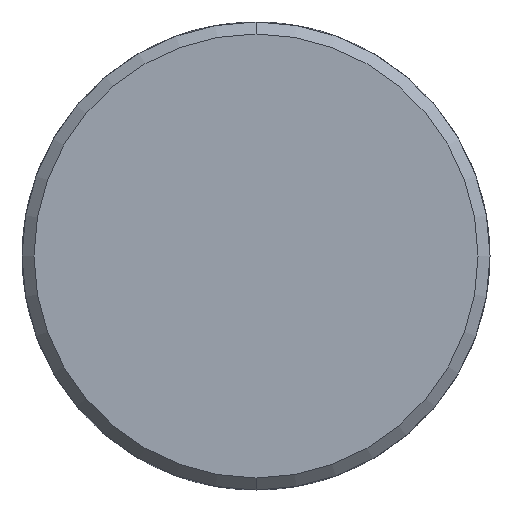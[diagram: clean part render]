
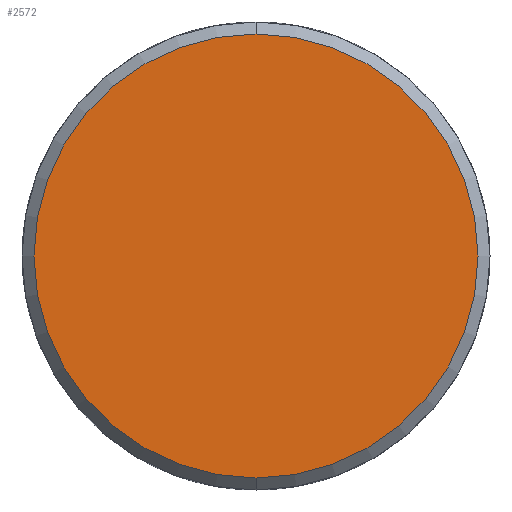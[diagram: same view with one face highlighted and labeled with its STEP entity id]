
A CAD part, front view. The second image highlights one B-rep face of the part: STEP entity #2572.
In plain terms, the highlighted planar face has unit normal (0, -1, 0).
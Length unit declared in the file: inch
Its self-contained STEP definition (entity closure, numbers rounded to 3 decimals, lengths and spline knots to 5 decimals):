
#444 = FACE_OUTER_BOUND ( 'NONE', #2573, .T. ) ;
#446 = PLANE ( 'NONE',  #571 ) ;
#454 = DIRECTION ( 'NONE',  ( 0., 0., 1. ) ) ;
#455 = DIRECTION ( 'NONE',  ( 0., 1., 0. ) ) ;
#570 = CARTESIAN_POINT ( 'NONE',  ( 0., 0., 0. ) ) ;
#571 = AXIS2_PLACEMENT_3D ( 'NONE', #570, #455, #454 ) ;
#841 = CIRCLE ( 'NONE', #863, 1.11 ) ;
#859 = DIRECTION ( 'NONE',  ( 0., 0., 1. ) ) ;
#860 = DIRECTION ( 'NONE',  ( 0., -1., 0. ) ) ;
#862 = CARTESIAN_POINT ( 'NONE',  ( 0., 0., 0. ) ) ;
#863 = AXIS2_PLACEMENT_3D ( 'NONE', #862, #860, #859 ) ;
#2035 = EDGE_CURVE ( 'NONE', #2036, #2037, #3167, .T. ) ;
#2036 = VERTEX_POINT ( 'NONE', #3163 ) ;
#2037 = VERTEX_POINT ( 'NONE', #3162 ) ;
#2505 = ORIENTED_EDGE ( 'NONE', *, *, #2506, .T. ) ;
#2506 = EDGE_CURVE ( 'NONE', #2037, #2036, #841, .T. ) ;
#2507 = ORIENTED_EDGE ( 'NONE', *, *, #2035, .T. ) ;
#2572 = ADVANCED_FACE ( 'NONE', ( #444 ), #446, .F. ) ;
#2573 = EDGE_LOOP ( 'NONE', ( #2505, #2507 ) ) ;
#3162 = CARTESIAN_POINT ( 'NONE',  ( 0., 0., 1.11 ) ) ;
#3163 = CARTESIAN_POINT ( 'NONE',  ( 0., 0., -1.11 ) ) ;
#3164 = DIRECTION ( 'NONE',  ( 0., 0., 1. ) ) ;
#3165 = DIRECTION ( 'NONE',  ( 0., -1., 0. ) ) ;
#3166 = AXIS2_PLACEMENT_3D ( 'NONE', #3168, #3165, #3164 ) ;
#3167 = CIRCLE ( 'NONE', #3166, 1.11 ) ;
#3168 = CARTESIAN_POINT ( 'NONE',  ( 0., 0., 0. ) ) ;
